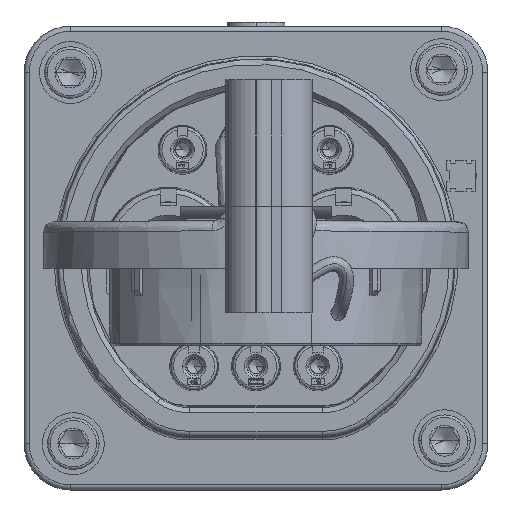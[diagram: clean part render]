
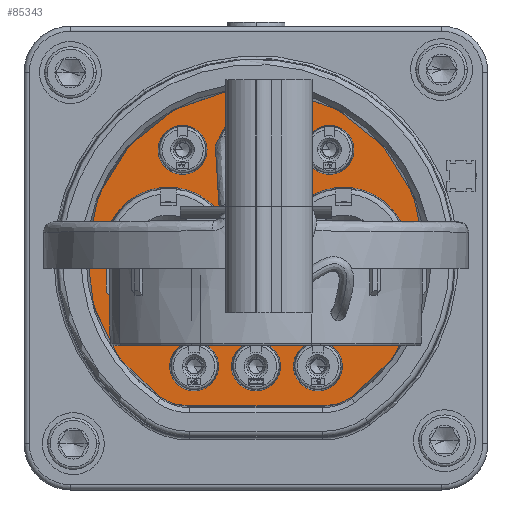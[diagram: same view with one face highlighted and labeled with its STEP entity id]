
A CAD part, front view. The second image highlights one B-rep face of the part: STEP entity #85343.
In plain terms, the highlighted planar face has unit normal (0, -1, 0).
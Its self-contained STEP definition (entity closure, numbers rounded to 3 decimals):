
#957=CARTESIAN_POINT('',(0.,47.,-9.));
#958=DIRECTION('',(0.,-1.,0.));
#959=DIRECTION('',(0.,0.,-1.));
#960=AXIS2_PLACEMENT_3D('',#957,#958,#959);
#962=CARTESIAN_POINT('',(0.,47.,-9.));
#963=DIRECTION('',(0.,-1.,0.));
#964=DIRECTION('',(0.,0.,1.));
#965=AXIS2_PLACEMENT_3D('',#962,#963,#964);
#967=CARTESIAN_POINT('',(-14.25,47.,21.));
#968=DIRECTION('',(0.,-1.,0.));
#969=DIRECTION('',(-1.,0.,0.));
#970=AXIS2_PLACEMENT_3D('',#967,#968,#969);
#972=CARTESIAN_POINT('',(-14.25,47.,21.));
#973=DIRECTION('',(0.,-1.,0.));
#974=DIRECTION('',(1.,0.,0.));
#975=AXIS2_PLACEMENT_3D('',#972,#973,#974);
#977=CARTESIAN_POINT('',(-12.,47.,-21.));
#978=DIRECTION('',(0.,-1.,0.));
#979=DIRECTION('',(-1.,0.,0.));
#980=AXIS2_PLACEMENT_3D('',#977,#978,#979);
#982=CARTESIAN_POINT('',(-12.,47.,-21.));
#983=DIRECTION('',(0.,-1.,0.));
#984=DIRECTION('',(1.,0.,0.));
#985=AXIS2_PLACEMENT_3D('',#982,#983,#984);
#987=CARTESIAN_POINT('',(-17.,47.,1.2));
#988=DIRECTION('',(0.,-1.,0.));
#989=DIRECTION('',(-1.,0.,0.));
#990=AXIS2_PLACEMENT_3D('',#987,#988,#989);
#992=CARTESIAN_POINT('',(-17.,47.,1.2));
#993=DIRECTION('',(0.,-1.,0.));
#994=DIRECTION('',(1.,0.,0.));
#995=AXIS2_PLACEMENT_3D('',#992,#993,#994);
#997=CARTESIAN_POINT('',(17.,47.,1.2));
#998=DIRECTION('',(0.,-1.,0.));
#999=DIRECTION('',(-1.,0.,0.));
#1000=AXIS2_PLACEMENT_3D('',#997,#998,#999);
#1002=CARTESIAN_POINT('',(17.,47.,1.2));
#1003=DIRECTION('',(0.,-1.,0.));
#1004=DIRECTION('',(1.,0.,0.));
#1005=AXIS2_PLACEMENT_3D('',#1002,#1003,#1004);
#1007=CARTESIAN_POINT('',(12.,47.,-21.));
#1008=DIRECTION('',(0.,-1.,0.));
#1009=DIRECTION('',(-1.,0.,0.));
#1010=AXIS2_PLACEMENT_3D('',#1007,#1008,#1009);
#1012=CARTESIAN_POINT('',(12.,47.,-21.));
#1013=DIRECTION('',(0.,-1.,0.));
#1014=DIRECTION('',(1.,0.,0.));
#1015=AXIS2_PLACEMENT_3D('',#1012,#1013,#1014);
#1017=CARTESIAN_POINT('',(14.25,47.,21.));
#1018=DIRECTION('',(0.,-1.,0.));
#1019=DIRECTION('',(-1.,0.,0.));
#1020=AXIS2_PLACEMENT_3D('',#1017,#1018,#1019);
#1022=CARTESIAN_POINT('',(14.25,47.,21.));
#1023=DIRECTION('',(0.,-1.,0.));
#1024=DIRECTION('',(1.,0.,0.));
#1025=AXIS2_PLACEMENT_3D('',#1022,#1023,#1024);
#1027=CARTESIAN_POINT('',(0.,47.,21.));
#1028=DIRECTION('',(0.,-1.,0.));
#1029=DIRECTION('',(0.,0.,-1.));
#1030=AXIS2_PLACEMENT_3D('',#1027,#1028,#1029);
#1032=CARTESIAN_POINT('',(0.,47.,21.));
#1033=DIRECTION('',(0.,-1.,0.));
#1034=DIRECTION('',(0.,0.,1.));
#1035=AXIS2_PLACEMENT_3D('',#1032,#1033,#1034);
#1037=CARTESIAN_POINT('',(0.,47.,-21.));
#1038=DIRECTION('',(0.,-1.,0.));
#1039=DIRECTION('',(0.,0.,-1.));
#1040=AXIS2_PLACEMENT_3D('',#1037,#1038,#1039);
#1042=CARTESIAN_POINT('',(0.,47.,-21.));
#1043=DIRECTION('',(0.,-1.,0.));
#1044=DIRECTION('',(0.,0.,1.));
#1045=AXIS2_PLACEMENT_3D('',#1042,#1043,#1044);
#1047=CARTESIAN_POINT('',(0.,47.,0.));
#1048=DIRECTION('',(0.,1.,0.));
#1049=DIRECTION('',(-0.572,0.,-0.82));
#1050=AXIS2_PLACEMENT_3D('',#1047,#1048,#1049);
#1052=CARTESIAN_POINT('',(0.,47.,0.));
#1053=DIRECTION('',(0.,-1.,0.));
#1054=DIRECTION('',(0.081,0.,0.997));
#1055=AXIS2_PLACEMENT_3D('',#1052,#1053,#1054);
#1057=CARTESIAN_POINT('',(0.,47.,0.));
#1058=DIRECTION('',(0.,1.,0.));
#1059=DIRECTION('',(0.081,0.,0.997));
#1060=AXIS2_PLACEMENT_3D('',#1057,#1058,#1059);
#1062=CARTESIAN_POINT('',(13.044,47.,-18.7));
#1063=DIRECTION('',(0.,1.,0.));
#1064=DIRECTION('',(0.572,0.,-0.82));
#1065=AXIS2_PLACEMENT_3D('',#1062,#1063,#1064);
#1067=CARTESIAN_POINT('',(-13.044,47.,-18.7));
#1068=DIRECTION('',(0.,1.,0.));
#1069=DIRECTION('',(0.,0.,-1.));
#1070=AXIS2_PLACEMENT_3D('',#1067,#1068,#1069);
#29615=CARTESIAN_POINT('',(2.646,47.,32.693));
#29645=CARTESIAN_POINT('',(-2.646,47.,
32.693));
#63523=DIRECTION('',(1.,0.,0.));
#63524=VECTOR('',#63523,26.088);
#63525=CARTESIAN_POINT('',(-13.044,47.,-28.7));
#63526=LINE('',#63525,#63524);
#66744=CARTESIAN_POINT('',(0.,47.,28.5));
#66745=VERTEX_POINT('',#66744);
#66747=CARTESIAN_POINT('',(0.,47.,13.5));
#66749=VERTEX_POINT('',#66747);
#66752=CARTESIAN_POINT('',(18.765,47.,-26.902));
#66753=CARTESIAN_POINT('',(13.044,47.,-28.7));
#66754=VERTEX_POINT('',#66752);
#66755=VERTEX_POINT('',#66753);
#66756=CARTESIAN_POINT('',(-13.044,47.,-28.7));
#66757=VERTEX_POINT('',#66756);
#66758=CARTESIAN_POINT('',(-18.765,47.,-26.902));
#66759=VERTEX_POINT('',#66758);
#66760=CARTESIAN_POINT('',(-19.,47.,21.));
#66761=CARTESIAN_POINT('',(-9.5,47.,21.));
#66762=VERTEX_POINT('',#66760);
#66763=VERTEX_POINT('',#66761);
#66764=CARTESIAN_POINT('',(-16.75,47.,-21.));
#66765=CARTESIAN_POINT('',(-7.25,47.,-21.));
#66766=VERTEX_POINT('',#66764);
#66767=VERTEX_POINT('',#66765);
#66768=CARTESIAN_POINT('',(-29.55,47.,1.2));
#66769=CARTESIAN_POINT('',(-4.45,47.,1.2));
#66770=VERTEX_POINT('',#66768);
#66771=VERTEX_POINT('',#66769);
#66772=CARTESIAN_POINT('',(4.45,47.,1.2));
#66773=CARTESIAN_POINT('',(29.55,47.,1.2));
#66774=VERTEX_POINT('',#66772);
#66775=VERTEX_POINT('',#66773);
#66776=CARTESIAN_POINT('',(7.25,47.,-21.));
#66777=CARTESIAN_POINT('',(16.75,47.,-21.));
#66778=VERTEX_POINT('',#66776);
#66779=VERTEX_POINT('',#66777);
#66780=CARTESIAN_POINT('',(9.5,47.,21.));
#66781=CARTESIAN_POINT('',(19.,47.,21.));
#66782=VERTEX_POINT('',#66780);
#66783=VERTEX_POINT('',#66781);
#76248=CARTESIAN_POINT('',(0.,47.,-4.25));
#76249=VERTEX_POINT('',#76248);
#76251=CARTESIAN_POINT('',(0.,47.,-13.75));
#76253=VERTEX_POINT('',#76251);
#82182=CARTESIAN_POINT('',(0.,47.,-16.25));
#82183=VERTEX_POINT('',#82182);
#82185=CARTESIAN_POINT('',(0.,47.,-25.75));
#82187=VERTEX_POINT('',#82185);
#83701=VERTEX_POINT('',#29615);
#83705=VERTEX_POINT('',#29645);
#85270=CARTESIAN_POINT('',(0.,47.,0.));
#85271=DIRECTION('',(0.,1.,0.));
#85272=DIRECTION('',(-1.,0.,0.));
#85273=AXIS2_PLACEMENT_3D('',#85270,#85271,#85272);
#85274=PLANE('',#85273);
#85276=ORIENTED_EDGE('',*,*,#85275,.T.);
#85278=ORIENTED_EDGE('',*,*,#85277,.F.);
#85280=ORIENTED_EDGE('',*,*,#85279,.T.);
#85282=ORIENTED_EDGE('',*,*,#85281,.T.);
#85284=ORIENTED_EDGE('',*,*,#85283,.F.);
#85286=ORIENTED_EDGE('',*,*,#85285,.T.);
#85287=EDGE_LOOP('',(#85276,#85278,#85280,#85282,#85284,#85286));
#85288=FACE_OUTER_BOUND('',#85287,.F.);
#85290=ORIENTED_EDGE('',*,*,#85289,.T.);
#85292=ORIENTED_EDGE('',*,*,#85291,.T.);
#85293=EDGE_LOOP('',(#85290,#85292));
#85294=FACE_BOUND('',#85293,.F.);
#85296=ORIENTED_EDGE('',*,*,#85295,.T.);
#85298=ORIENTED_EDGE('',*,*,#85297,.T.);
#85299=EDGE_LOOP('',(#85296,#85298));
#85300=FACE_BOUND('',#85299,.F.);
#85302=ORIENTED_EDGE('',*,*,#85301,.T.);
#85304=ORIENTED_EDGE('',*,*,#85303,.T.);
#85305=EDGE_LOOP('',(#85302,#85304));
#85306=FACE_BOUND('',#85305,.F.);
#85308=ORIENTED_EDGE('',*,*,#85307,.T.);
#85310=ORIENTED_EDGE('',*,*,#85309,.T.);
#85311=EDGE_LOOP('',(#85308,#85310));
#85312=FACE_BOUND('',#85311,.F.);
#85314=ORIENTED_EDGE('',*,*,#85313,.T.);
#85316=ORIENTED_EDGE('',*,*,#85315,.T.);
#85317=EDGE_LOOP('',(#85314,#85316));
#85318=FACE_BOUND('',#85317,.F.);
#85320=ORIENTED_EDGE('',*,*,#85319,.T.);
#85322=ORIENTED_EDGE('',*,*,#85321,.T.);
#85323=EDGE_LOOP('',(#85320,#85322));
#85324=FACE_BOUND('',#85323,.F.);
#85326=ORIENTED_EDGE('',*,*,#85325,.T.);
#85328=ORIENTED_EDGE('',*,*,#85327,.T.);
#85329=EDGE_LOOP('',(#85326,#85328));
#85330=FACE_BOUND('',#85329,.F.);
#85332=ORIENTED_EDGE('',*,*,#85331,.T.);
#85334=ORIENTED_EDGE('',*,*,#85333,.T.);
#85335=EDGE_LOOP('',(#85332,#85334));
#85336=FACE_BOUND('',#85335,.F.);
#85338=ORIENTED_EDGE('',*,*,#85337,.T.);
#85340=ORIENTED_EDGE('',*,*,#85339,.T.);
#85341=EDGE_LOOP('',(#85338,#85340));
#85342=FACE_BOUND('',#85341,.F.);
#961=CIRCLE('',#960,4.75);
#966=CIRCLE('',#965,4.75);
#971=CIRCLE('',#970,4.75);
#976=CIRCLE('',#975,4.75);
#981=CIRCLE('',#980,4.75);
#986=CIRCLE('',#985,4.75);
#991=CIRCLE('',#990,12.55);
#996=CIRCLE('',#995,12.55);
#1001=CIRCLE('',#1000,12.55);
#1006=CIRCLE('',#1005,12.55);
#1011=CIRCLE('',#1010,4.75);
#1016=CIRCLE('',#1015,4.75);
#1021=CIRCLE('',#1020,4.75);
#1026=CIRCLE('',#1025,4.75);
#1031=CIRCLE('',#1030,7.5);
#1036=CIRCLE('',#1035,7.5);
#1041=CIRCLE('',#1040,4.75);
#1046=CIRCLE('',#1045,4.75);
#1051=CIRCLE('',#1050,32.8);
#1056=CIRCLE('',#1055,32.8);
#1061=CIRCLE('',#1060,32.8);
#1066=CIRCLE('',#1065,10.);
#1071=CIRCLE('',#1070,10.);
#85275=EDGE_CURVE('',#66759,#83705,#1051,.T.);
#85277=EDGE_CURVE('',#83701,#83705,#1056,.T.);
#85279=EDGE_CURVE('',#83701,#66754,#1061,.T.);
#85281=EDGE_CURVE('',#66754,#66755,#1066,.T.);
#85283=EDGE_CURVE('',#66757,#66755,#63526,.T.);
#85285=EDGE_CURVE('',#66757,#66759,#1071,.T.);
#85289=EDGE_CURVE('',#76253,#76249,#961,.T.);
#85291=EDGE_CURVE('',#76249,#76253,#966,.T.);
#85295=EDGE_CURVE('',#66762,#66763,#971,.T.);
#85297=EDGE_CURVE('',#66763,#66762,#976,.T.);
#85301=EDGE_CURVE('',#66766,#66767,#981,.T.);
#85303=EDGE_CURVE('',#66767,#66766,#986,.T.);
#85307=EDGE_CURVE('',#66770,#66771,#991,.T.);
#85309=EDGE_CURVE('',#66771,#66770,#996,.T.);
#85313=EDGE_CURVE('',#66774,#66775,#1001,.T.);
#85315=EDGE_CURVE('',#66775,#66774,#1006,.T.);
#85319=EDGE_CURVE('',#66778,#66779,#1011,.T.);
#85321=EDGE_CURVE('',#66779,#66778,#1016,.T.);
#85325=EDGE_CURVE('',#66782,#66783,#1021,.T.);
#85327=EDGE_CURVE('',#66783,#66782,#1026,.T.);
#85331=EDGE_CURVE('',#66749,#66745,#1031,.T.);
#85333=EDGE_CURVE('',#66745,#66749,#1036,.T.);
#85337=EDGE_CURVE('',#82187,#82183,#1041,.T.);
#85339=EDGE_CURVE('',#82183,#82187,#1046,.T.);
#85343=ADVANCED_FACE('',(#85288,#85294,#85300,#85306,#85312,#85318,#85324,
#85330,#85336,#85342),#85274,.F.);
